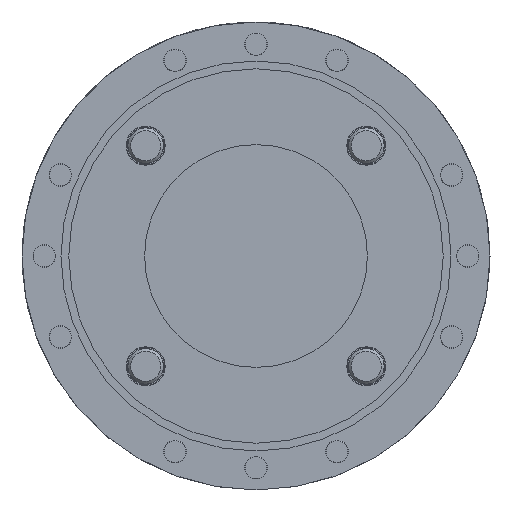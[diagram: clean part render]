
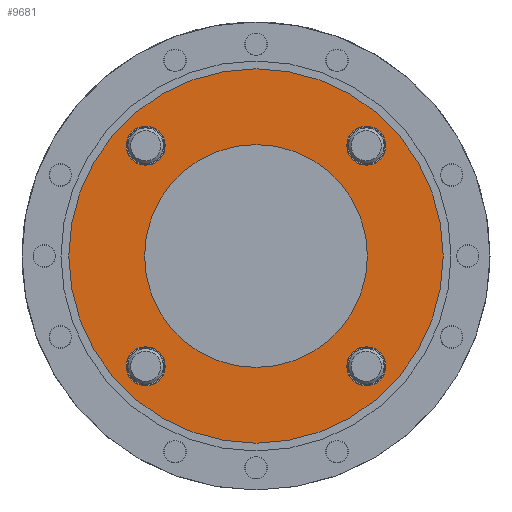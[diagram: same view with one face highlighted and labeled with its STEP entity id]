
A CAD part, left-side view. The second image highlights one B-rep face of the part: STEP entity #9681.
In plain terms, the highlighted planar face has unit normal (-1, 0, 0).
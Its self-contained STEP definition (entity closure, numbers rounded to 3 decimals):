
#9442 = VERTEX_POINT('',#9443);
#9443 = CARTESIAN_POINT('',(-485.,-50.,0.));
#9448 = EDGE_CURVE('',#9442,#9442,#9449,.T.);
#9449 = CIRCLE('',#9450,50.);
#9450 = AXIS2_PLACEMENT_3D('',#9451,#9452,#9453);
#9451 = CARTESIAN_POINT('',(-485.,0.,0.));
#9452 = DIRECTION('',(1.,0.,0.));
#9453 = DIRECTION('',(0.,-1.,0.));
#9663 = VERTEX_POINT('',#9664);
#9664 = CARTESIAN_POINT('',(-485.,-84.,0.));
#9669 = EDGE_CURVE('',#9663,#9663,#9670,.T.);
#9670 = CIRCLE('',#9671,84.);
#9671 = AXIS2_PLACEMENT_3D('',#9672,#9673,#9674);
#9672 = CARTESIAN_POINT('',(-485.,0.,0.));
#9673 = DIRECTION('',(1.,0.,0.));
#9674 = DIRECTION('',(0.,-1.,0.));
#9681 = ADVANCED_FACE('',(#9682,#9685,#9696,#9707,#9718,#9729),#9732,.T.
  );
#9682 = FACE_BOUND('',#9683,.T.);
#9683 = EDGE_LOOP('',(#9684));
#9684 = ORIENTED_EDGE('',*,*,#9669,.F.);
#9685 = FACE_BOUND('',#9686,.T.);
#9686 = EDGE_LOOP('',(#9687));
#9687 = ORIENTED_EDGE('',*,*,#9688,.T.);
#9688 = EDGE_CURVE('',#9689,#9689,#9691,.T.);
#9689 = VERTEX_POINT('',#9690);
#9690 = CARTESIAN_POINT('',(-485.,40.747,49.497));
#9691 = CIRCLE('',#9692,8.75);
#9692 = AXIS2_PLACEMENT_3D('',#9693,#9694,#9695);
#9693 = CARTESIAN_POINT('',(-485.,49.497,49.497));
#9694 = DIRECTION('',(1.,0.,0.));
#9695 = DIRECTION('',(-0.,1.,0.));
#9696 = FACE_BOUND('',#9697,.T.);
#9697 = EDGE_LOOP('',(#9698));
#9698 = ORIENTED_EDGE('',*,*,#9699,.T.);
#9699 = EDGE_CURVE('',#9700,#9700,#9702,.T.);
#9700 = VERTEX_POINT('',#9701);
#9701 = CARTESIAN_POINT('',(-485.,49.497,-40.747));
#9702 = CIRCLE('',#9703,8.75);
#9703 = AXIS2_PLACEMENT_3D('',#9704,#9705,#9706);
#9704 = CARTESIAN_POINT('',(-485.,49.497,-49.497));
#9705 = DIRECTION('',(1.,0.,0.));
#9706 = DIRECTION('',(0.,0.,-1.));
#9707 = FACE_BOUND('',#9708,.T.);
#9708 = EDGE_LOOP('',(#9709));
#9709 = ORIENTED_EDGE('',*,*,#9710,.T.);
#9710 = EDGE_CURVE('',#9711,#9711,#9713,.T.);
#9711 = VERTEX_POINT('',#9712);
#9712 = CARTESIAN_POINT('',(-485.,-40.747,-49.497));
#9713 = CIRCLE('',#9714,8.75);
#9714 = AXIS2_PLACEMENT_3D('',#9715,#9716,#9717);
#9715 = CARTESIAN_POINT('',(-485.,-49.497,-49.497));
#9716 = DIRECTION('',(1.,0.,0.));
#9717 = DIRECTION('',(0.,-1.,0.));
#9718 = FACE_BOUND('',#9719,.T.);
#9719 = EDGE_LOOP('',(#9720));
#9720 = ORIENTED_EDGE('',*,*,#9721,.T.);
#9721 = EDGE_CURVE('',#9722,#9722,#9724,.T.);
#9722 = VERTEX_POINT('',#9723);
#9723 = CARTESIAN_POINT('',(-485.,-49.497,40.747));
#9724 = CIRCLE('',#9725,8.75);
#9725 = AXIS2_PLACEMENT_3D('',#9726,#9727,#9728);
#9726 = CARTESIAN_POINT('',(-485.,-49.497,49.497));
#9727 = DIRECTION('',(1.,0.,-0.));
#9728 = DIRECTION('',(0.,0.,1.));
#9729 = FACE_BOUND('',#9730,.T.);
#9730 = EDGE_LOOP('',(#9731));
#9731 = ORIENTED_EDGE('',*,*,#9448,.T.);
#9732 = PLANE('',#9733);
#9733 = AXIS2_PLACEMENT_3D('',#9734,#9735,#9736);
#9734 = CARTESIAN_POINT('',(-485.,-67.,0.));
#9735 = DIRECTION('',(-1.,0.,0.));
#9736 = DIRECTION('',(0.,0.,-1.));
